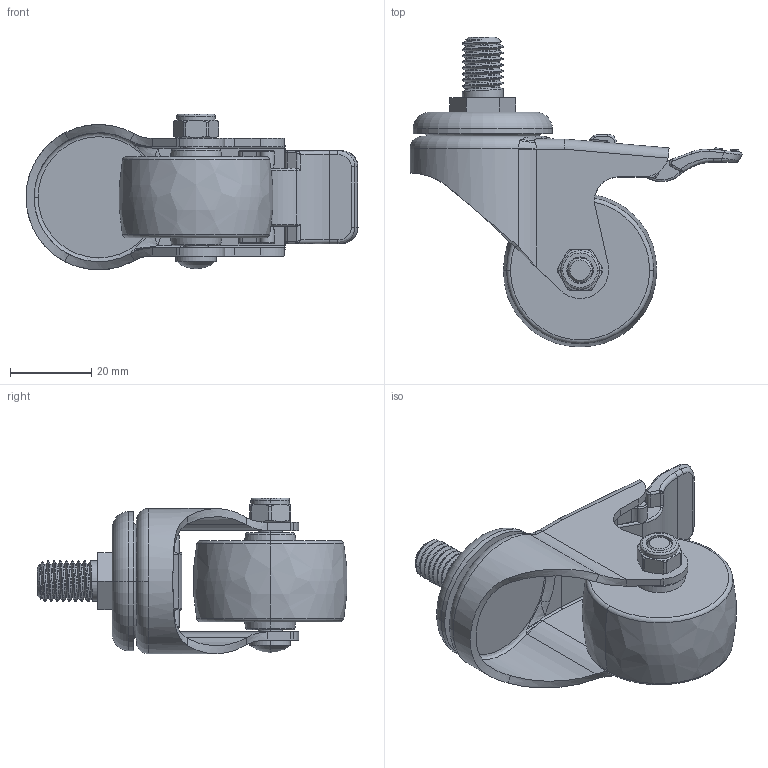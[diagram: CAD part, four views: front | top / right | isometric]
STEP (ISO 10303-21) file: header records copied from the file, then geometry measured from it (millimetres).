
FILE_DESCRIPTION((''),'2;1');
FILE_NAME('261115-2615-83_ASM','2019-12-13T',('L'),(''),'PRO/ENGINEER BY PARAMETRIC TECHNOLOGY CORPORATION, 2010280','PRO/ENGINEER BY PARAMETRIC TECHNOLOGY CORPORATION, 2010280','');
FILE_SCHEMA(('CONFIG_CONTROL_DESIGN'));
Length unit declared in the file: millimetre
Products named in the file (6): 261415; 2615-83; 2610-020; 2610-031; 2600-512; 261115-2615-83_ASM
Assembly tree (5 placements, depth 2):
  261115-2615-83_ASM
    261415
    2615-83
    2610-020
    2610-031
    2600-512
Bounding box: 81.87 x 76.4 x 38.43 mm (x, y, z)
Volume: 39721.7 mm3; surface area: 19250.4 mm2
Topology: 5 solids, 5 shells, 345 faces, 836 edges, 507 vertices
Faces by surface type: cylinder 124, plane 96, torus 52, bspline 51, cone 20, sphere 2
Entity records: 14458 total; most frequent: CARTESIAN_POINT 6543, ORIENTED_EDGE 1660, DIRECTION 1600, EDGE_CURVE 830, AXIS2_PLACEMENT_3D 631, VERTEX_POINT 507, EDGE_LOOP 367, FACE_OUTER_BOUND 345
